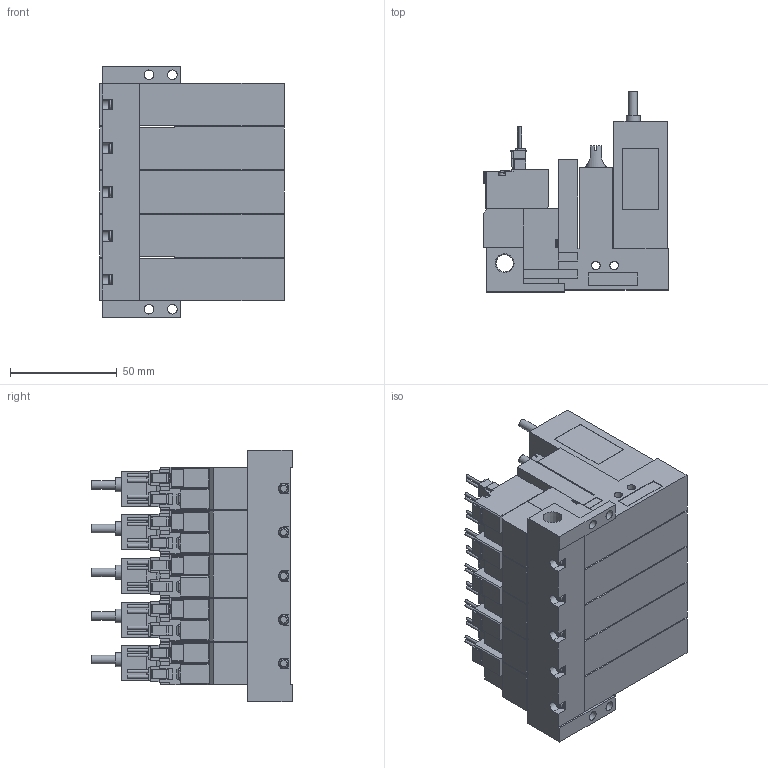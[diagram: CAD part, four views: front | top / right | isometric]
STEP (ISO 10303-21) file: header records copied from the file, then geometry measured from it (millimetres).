
FILE_DESCRIPTION(('STEP AP203'),'1');
FILE_NAME('VG_VGPL5ALR505.stp','2025-02-19T01:06:02',(' '),(' '),'Spatial InterOp 3D',' ',' ');
FILE_SCHEMA(('CONFIG_CONTROL_DESIGN'));
Length unit declared in the file: millimetre
Products named in the file (5): BMC22M※※※※VG_VGPL5ALR505; Solenoid valve A; Pressure sensor VGL; Unit L; Base MR50R
Assembly tree (16 placements, depth 2):
  BMC22M※※※※VG_VGPL5ALR505
    Solenoid valve A  x5
    Pressure sensor VGL  x5
    Unit L  x5
    Base MR50R
Bounding box: 86.6 x 94 x 118 mm (x, y, z)
Volume: 502150.7 mm3; surface area: 135319.2 mm2
Topology: 16 solids, 16 shells, 1916 faces, 5124 edges, 3385 vertices
Faces by surface type: plane 1614, cylinder 250, cone 37, torus 15
Full cylindrical faces by diameter (mm): 1.4 x20, 2.5 x15, 3 x20, 3.5 x20, 3.6 x5, 4 x30, 4.134 x5, 4.5 x4, 5.2 x5, 6 x5, 6.5 x5, 6.6 x5, 8.279 x1
Entity records: 14294 total; most frequent: CARTESIAN_POINT 2700, DIRECTION 2283, ORIENTED_EDGE 2234, EDGE_CURVE 1117, LINE 903, VECTOR 903, VERTEX_POINT 782, AXIS2_PLACEMENT_3D 690
